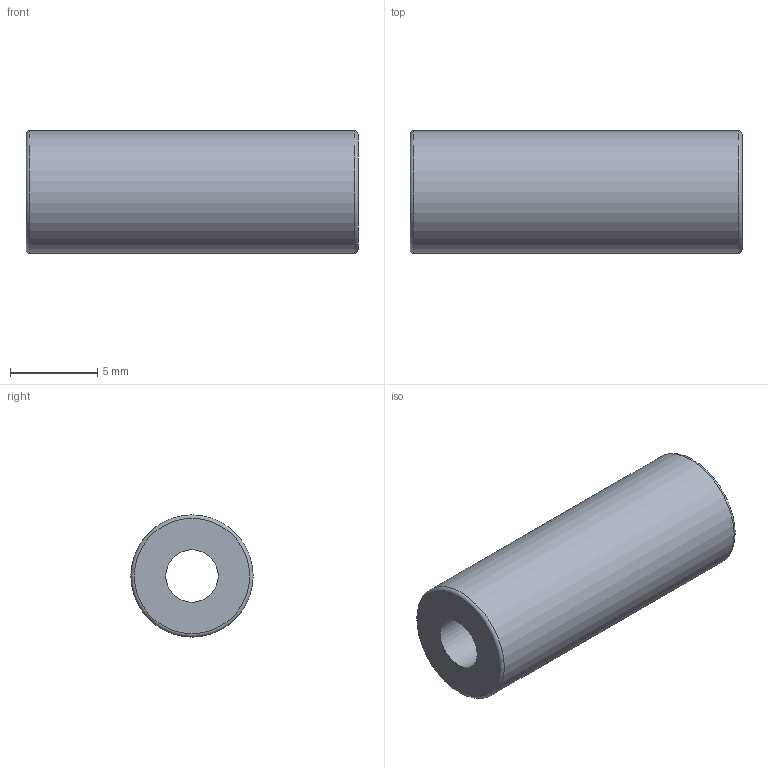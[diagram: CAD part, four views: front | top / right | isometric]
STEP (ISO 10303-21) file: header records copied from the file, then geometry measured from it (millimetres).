
FILE_DESCRIPTION(('FreeCAD Model'),'2;1');
FILE_NAME('Open CASCADE Shape Model','2021-05-03T10:59:28',('Author'),( ''),'Open CASCADE STEP processor 7.5','FreeCAD','Unknown');
FILE_SCHEMA(('AUTOMOTIVE_DESIGN { 1 0 10303 214 1 1 1 1 }'));
Length unit declared in the file: millimetre
Products named in the file (1): _LM3L
Bounding box: 19 x 7 x 7 mm (x, y, z)
Volume: 596.5 mm3; surface area: 655.9 mm2
Topology: 1 solids, 1 shells, 6 faces, 10 edges, 6 vertices
Faces by surface type: torus 2, plane 2, cylinder 2
Full cylindrical faces by diameter (mm): 3 x1, 7 x1
Entity records: 310 total; most frequent: CARTESIAN_POINT 69, DIRECTION 44, ORIENTED_EDGE 20, PCURVE 20, DEFINITIONAL_REPRESENTATION 20, LINE 16, VECTOR 16, AXIS2_PLACEMENT_3D 13
